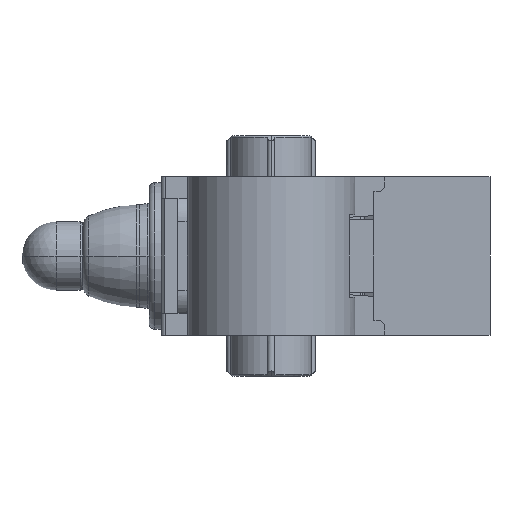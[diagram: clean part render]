
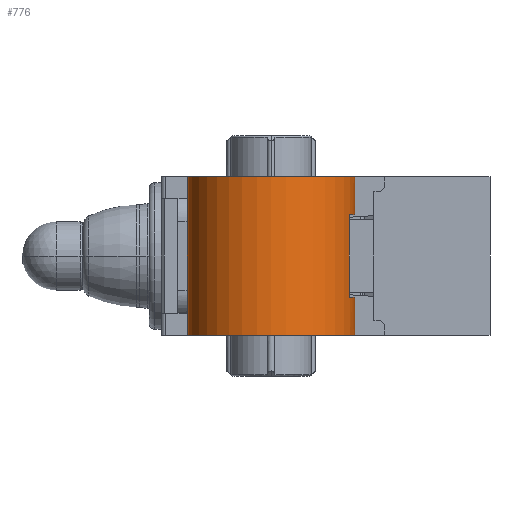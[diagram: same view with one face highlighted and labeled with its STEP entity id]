
A CAD part, left-side view. The second image highlights one B-rep face of the part: STEP entity #776.
In plain terms, the highlighted cylindrical face has radius 3.062 mm (diameter 6.125 mm), a partial arc.
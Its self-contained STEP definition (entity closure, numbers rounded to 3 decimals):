
#750 = EDGE_CURVE ( 'NONE', #855, #12198, #14759, .T. ) ;
#769 = EDGE_CURVE ( 'NONE', #12430, #780, #15171, .T. ) ;
#776 = ADVANCED_FACE ( 'NONE', ( #15167 ), #15126, .T. ) ;
#777 = ORIENTED_EDGE ( 'NONE', *, *, #750, .F. ) ;
#780 = VERTEX_POINT ( 'NONE', #15078 ) ;
#795 = EDGE_LOOP ( 'NONE', ( #777, #863, #864, #816, #861, #851, #852, #853 ) ) ;
#816 = ORIENTED_EDGE ( 'NONE', *, *, #859, .T. ) ;
#851 = ORIENTED_EDGE ( 'NONE', *, *, #769, .F. ) ;
#852 = ORIENTED_EDGE ( 'NONE', *, *, #12618, .F. ) ;
#853 = ORIENTED_EDGE ( 'NONE', *, *, #12196, .T. ) ;
#854 = VERTEX_POINT ( 'NONE', #15249 ) ;
#855 = VERTEX_POINT ( 'NONE', #15248 ) ;
#857 = VERTEX_POINT ( 'NONE', #15247 ) ;
#858 = VERTEX_POINT ( 'NONE', #15246 ) ;
#859 = EDGE_CURVE ( 'NONE', #854, #857, #15245, .T. ) ;
#860 = EDGE_CURVE ( 'NONE', #854, #858, #15295, .T. ) ;
#861 = ORIENTED_EDGE ( 'NONE', *, *, #862, .T. ) ;
#862 = EDGE_CURVE ( 'NONE', #857, #780, #15291, .T. ) ;
#863 = ORIENTED_EDGE ( 'NONE', *, *, #865, .F. ) ;
#864 = ORIENTED_EDGE ( 'NONE', *, *, #860, .F. ) ;
#865 = EDGE_CURVE ( 'NONE', #858, #855, #15286, .T. ) ;
#7677 = CARTESIAN_POINT ( 'NONE',  ( -9.238, 1.287, -1.5 ) ) ;
#7713 = DIRECTION ( 'NONE',  ( 0., 0., 1. ) ) ;
#7714 = VECTOR ( 'NONE', #7713, 1000. ) ;
#7715 = CARTESIAN_POINT ( 'NONE',  ( -9.238, 1.287, -11.394 ) ) ;
#7716 = LINE ( 'NONE', #7715, #7714 ) ;
#7717 = CARTESIAN_POINT ( 'NONE',  ( -9.238, 1.287, -2.9 ) ) ;
#8034 = CARTESIAN_POINT ( 'NONE',  ( -9.238, 7.413, -2.9 ) ) ;
#8576 = DIRECTION ( 'NONE',  ( 1., 0., 0. ) ) ;
#8577 = DIRECTION ( 'NONE',  ( 0., 0., -1. ) ) ;
#8578 = CARTESIAN_POINT ( 'NONE',  ( -9.238, 4.35, -2.9 ) ) ;
#8579 = AXIS2_PLACEMENT_3D ( 'NONE', #8578, #8577, #8576 ) ;
#8580 = CIRCLE ( 'NONE', #8579, 3.063 ) ;
#12195 = VERTEX_POINT ( 'NONE', #7717 ) ;
#12196 = EDGE_CURVE ( 'NONE', #12195, #12198, #7716, .T. ) ;
#12198 = VERTEX_POINT ( 'NONE', #7677 ) ;
#12430 = VERTEX_POINT ( 'NONE', #8034 ) ;
#12618 = EDGE_CURVE ( 'NONE', #12195, #12430, #8580, .T. ) ;
#14755 = DIRECTION ( 'NONE',  ( -1., 0., 0. ) ) ;
#14756 = DIRECTION ( 'NONE',  ( 0., 0., 1. ) ) ;
#14757 = CARTESIAN_POINT ( 'NONE',  ( -9.238, 4.35, -1.5 ) ) ;
#14758 = AXIS2_PLACEMENT_3D ( 'NONE', #14757, #14756, #14755 ) ;
#14759 = CIRCLE ( 'NONE', #14758, 3.063 ) ;
#15078 = CARTESIAN_POINT ( 'NONE',  ( -9.238, 7.413, 2.9 ) ) ;
#15123 = DIRECTION ( 'NONE',  ( 1., 0., 0. ) ) ;
#15124 = DIRECTION ( 'NONE',  ( 0., 0., 1. ) ) ;
#15125 = AXIS2_PLACEMENT_3D ( 'NONE', #15129, #15124, #15123 ) ;
#15126 = CYLINDRICAL_SURFACE ( 'NONE', #15125, 3.063 ) ;
#15129 = CARTESIAN_POINT ( 'NONE',  ( -9.238, 4.35, -11.394 ) ) ;
#15167 = FACE_OUTER_BOUND ( 'NONE', #795, .T. ) ;
#15168 = DIRECTION ( 'NONE',  ( 0., 0., 1. ) ) ;
#15169 = VECTOR ( 'NONE', #15168, 1000. ) ;
#15170 = CARTESIAN_POINT ( 'NONE',  ( -9.238, 7.413, -11.394 ) ) ;
#15171 = LINE ( 'NONE', #15170, #15169 ) ;
#15241 = CARTESIAN_POINT ( 'NONE',  ( -9.238, 4.35, 1.5 ) ) ;
#15242 = DIRECTION ( 'NONE',  ( 0., 0., 1. ) ) ;
#15243 = VECTOR ( 'NONE', #15242, 1000. ) ;
#15244 = CARTESIAN_POINT ( 'NONE',  ( -9.238, 1.287, -11.394 ) ) ;
#15245 = LINE ( 'NONE', #15244, #15243 ) ;
#15246 = CARTESIAN_POINT ( 'NONE',  ( -10.326, 1.487, 1.5 ) ) ;
#15247 = CARTESIAN_POINT ( 'NONE',  ( -9.238, 1.287, 2.9 ) ) ;
#15248 = CARTESIAN_POINT ( 'NONE',  ( -10.326, 1.487, -1.5 ) ) ;
#15249 = CARTESIAN_POINT ( 'NONE',  ( -9.238, 1.287, 1.5 ) ) ;
#15283 = DIRECTION ( 'NONE',  ( 0., 0., -1. ) ) ;
#15284 = VECTOR ( 'NONE', #15283, 1000. ) ;
#15285 = CARTESIAN_POINT ( 'NONE',  ( -10.326, 1.487, -11.394 ) ) ;
#15286 = LINE ( 'NONE', #15285, #15284 ) ;
#15287 = DIRECTION ( 'NONE',  ( -1., 0., 0. ) ) ;
#15288 = DIRECTION ( 'NONE',  ( 0., 0., -1. ) ) ;
#15289 = CARTESIAN_POINT ( 'NONE',  ( -9.238, 4.35, 2.9 ) ) ;
#15290 = AXIS2_PLACEMENT_3D ( 'NONE', #15289, #15288, #15287 ) ;
#15291 = CIRCLE ( 'NONE', #15290, 3.063 ) ;
#15292 = DIRECTION ( 'NONE',  ( 1., 0., 0. ) ) ;
#15293 = DIRECTION ( 'NONE',  ( 0., 0., -1. ) ) ;
#15294 = AXIS2_PLACEMENT_3D ( 'NONE', #15241, #15293, #15292 ) ;
#15295 = CIRCLE ( 'NONE', #15294, 3.063 ) ;
